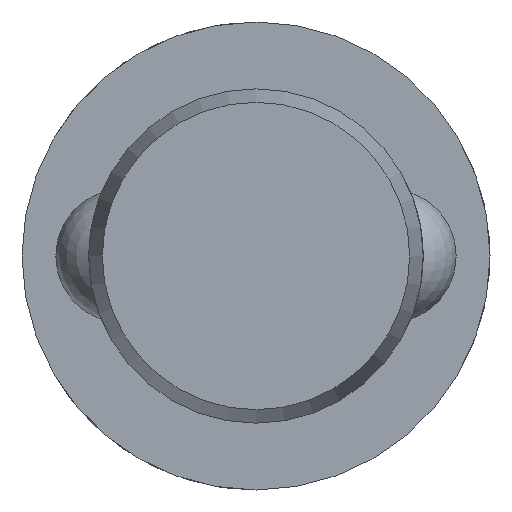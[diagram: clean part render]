
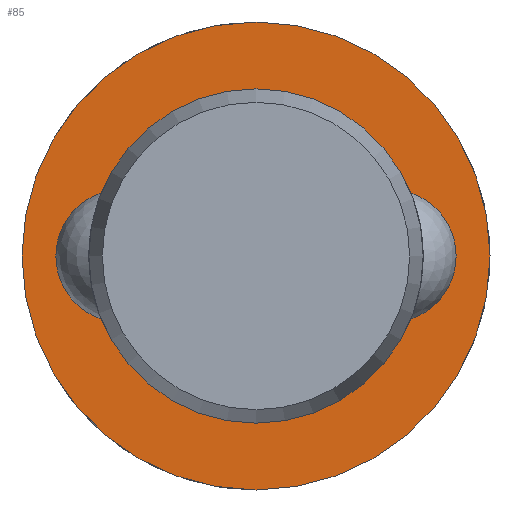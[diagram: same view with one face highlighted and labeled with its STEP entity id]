
A CAD part, left-side view. The second image highlights one B-rep face of the part: STEP entity #85.
In plain terms, the highlighted planar face has unit normal (-1, 0, 0).
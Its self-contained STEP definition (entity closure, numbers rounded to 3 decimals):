
#85 = ADVANCED_FACE( '', ( #130, #131 ), #132, .F. );
#130 = FACE_OUTER_BOUND( '', #200, .T. );
#131 = FACE_BOUND( '', #201, .T. );
#132 = PLANE( '', #202 );
#200 = EDGE_LOOP( '', ( #315 ) );
#201 = EDGE_LOOP( '', ( #316 ) );
#202 = AXIS2_PLACEMENT_3D( '', #317, #318, #319 );
#315 = ORIENTED_EDGE( '', *, *, #458, .F. );
#316 = ORIENTED_EDGE( '', *, *, #455, .T. );
#317 = CARTESIAN_POINT( '', ( 69.6, 5., 0. ) );
#318 = DIRECTION( '', ( 1., 0., 0. ) );
#319 = DIRECTION( '', ( 0., 0., -1. ) );
#455 = EDGE_CURVE( '', #528, #528, #529, .T. );
#458 = EDGE_CURVE( '', #534, #534, #535, .T. );
#528 = VERTEX_POINT( '', #732 );
#529 = CIRCLE( '', #733, 5. );
#534 = VERTEX_POINT( '', #844 );
#535 = CIRCLE( '', #845, 7. );
#732 = CARTESIAN_POINT( '', ( 69.6, 0., -5. ) );
#733 = AXIS2_PLACEMENT_3D( '', #922, #923, #924 );
#844 = CARTESIAN_POINT( '', ( 69.6, 0., -7. ) );
#845 = AXIS2_PLACEMENT_3D( '', #925, #926, #927 );
#922 = CARTESIAN_POINT( '', ( 69.6, 0., 0. ) );
#923 = DIRECTION( '', ( 1., 0., 0. ) );
#924 = DIRECTION( '', ( 0., 0., -1. ) );
#925 = CARTESIAN_POINT( '', ( 69.6, 0., 0. ) );
#926 = DIRECTION( '', ( 1., 0., 0. ) );
#927 = DIRECTION( '', ( 0., 0., -1. ) );
